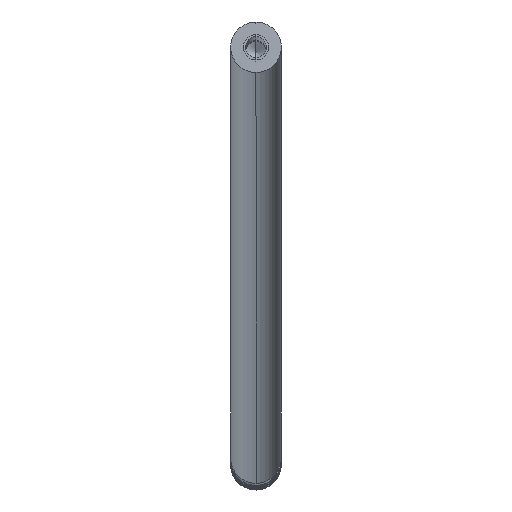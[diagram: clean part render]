
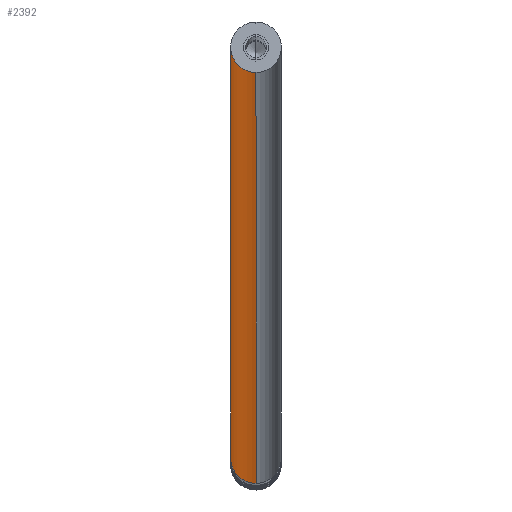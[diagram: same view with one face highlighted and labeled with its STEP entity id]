
A CAD part, left-side view. The second image highlights one B-rep face of the part: STEP entity #2392.
In plain terms, the highlighted cylindrical face has radius 3 mm (diameter 6 mm), a partial arc.
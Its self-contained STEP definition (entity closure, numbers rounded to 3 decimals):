
#1=CARTESIAN_POINT('',(634.541,0.,138.513));
#2=DIRECTION('',(0.997,0.,-0.077));
#3=DIRECTION('',(-0.077,0.,-0.997));
#4=AXIS2_PLACEMENT_3D('',#1,#2,#3);
#393=CARTESIAN_POINT('',(1262.47,0.,89.823));
#394=DIRECTION('',(0.997,0.,-0.077));
#395=DIRECTION('',(-0.077,0.,-0.997));
#396=AXIS2_PLACEMENT_3D('',#393,#394,#395);
#398=DIRECTION('',(0.997,0.,-0.077));
#399=VECTOR('',#398,629.814);
#400=CARTESIAN_POINT('',(634.309,0.,135.522));
#401=LINE('',#400,#399);
#1069=DIRECTION('',(0.997,0.,-0.077));
#1070=VECTOR('',#1069,629.814);
#1071=CARTESIAN_POINT('',(634.773,0.,141.504));
#1072=LINE('',#1071,#1070);
#2177=CARTESIAN_POINT('',(634.309,0.,135.522));
#2178=CARTESIAN_POINT('',(634.773,0.,141.504));
#2179=VERTEX_POINT('',#2177);
#2180=VERTEX_POINT('',#2178);
#2250=CARTESIAN_POINT('',(1262.238,0.,
86.832));
#2251=CARTESIAN_POINT('',(1262.702,0.,
92.814));
#2252=VERTEX_POINT('',#2250);
#2253=VERTEX_POINT('',#2251);
#2378=CARTESIAN_POINT('',(634.541,0.,138.513));
#2379=DIRECTION('',(0.997,0.,-0.077));
#2380=DIRECTION('',(-0.077,0.,-0.997));
#2381=AXIS2_PLACEMENT_3D('',#2378,#2379,#2380);
#2382=CYLINDRICAL_SURFACE('',#2381,3.);
#2384=ORIENTED_EDGE('',*,*,#2383,.T.);
#2386=ORIENTED_EDGE('',*,*,#2385,.F.);
#2387=ORIENTED_EDGE('',*,*,#2269,.F.);
#2389=ORIENTED_EDGE('',*,*,#2388,.T.);
#2390=EDGE_LOOP('',(#2384,#2386,#2387,#2389));
#2391=FACE_OUTER_BOUND('',#2390,.F.);
#2392=ADVANCED_FACE('',(#2391),#2382,.T.);
#5=CIRCLE('',#4,3.);
#397=CIRCLE('',#396,3.);
#2269=EDGE_CURVE('',#2179,#2180,#5,.T.);
#2383=EDGE_CURVE('',#2252,#2253,#397,.T.);
#2385=EDGE_CURVE('',#2180,#2253,#1072,.T.);
#2388=EDGE_CURVE('',#2179,#2252,#401,.T.);
